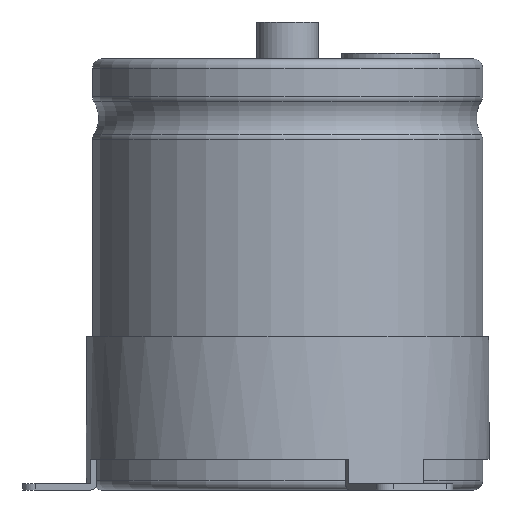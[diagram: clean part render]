
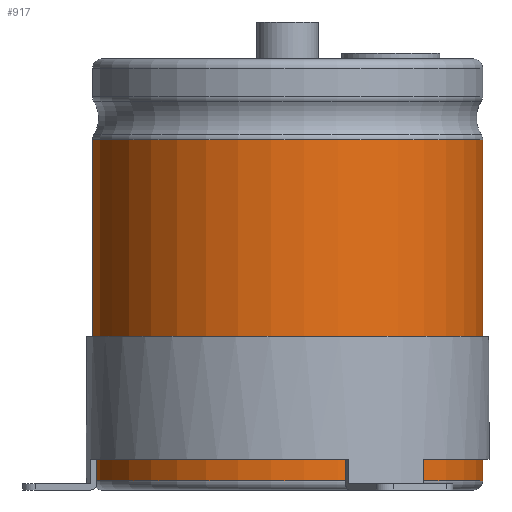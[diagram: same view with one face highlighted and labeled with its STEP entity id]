
A CAD part, front view. The second image highlights one B-rep face of the part: STEP entity #917.
In plain terms, the highlighted cylindrical face has radius 31.75 mm (diameter 63.5 mm), a partial arc.
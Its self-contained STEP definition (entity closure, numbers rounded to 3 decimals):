
#917=ADVANCED_FACE('',(#1213),#1039,.T.);
#1039=CYLINDRICAL_SURFACE('',#4878,31.75);
#1213=FACE_OUTER_BOUND('',#1474,.T.);
#1474=EDGE_LOOP('',(#2748,#2749,#2750,#2751));
#1758=CIRCLE('',#4875,31.75);
#1759=CIRCLE('',#4877,31.75);
#2748=ORIENTED_EDGE('',*,*,#3929,.T.);
#2749=ORIENTED_EDGE('',*,*,#3930,.T.);
#2750=ORIENTED_EDGE('',*,*,#3931,.F.);
#2751=ORIENTED_EDGE('',*,*,#3932,.F.);
#3366=VERTEX_POINT('',#7964);
#3368=VERTEX_POINT('',#7968);
#3369=VERTEX_POINT('',#7972);
#3370=VERTEX_POINT('',#7974);
#3929=EDGE_CURVE('',#3366,#3368,#1758,.T.);
#3930=EDGE_CURVE('',#3368,#3369,#4255,.T.);
#3931=EDGE_CURVE('',#3370,#3369,#1759,.T.);
#3932=EDGE_CURVE('',#3366,#3370,#4256,.T.);
#4255=LINE('',#7971,#4469);
#4256=LINE('',#7975,#4470);
#4469=VECTOR('',#5936,1.);
#4470=VECTOR('',#5939,1.);
#4875=AXIS2_PLACEMENT_3D('',#7969,#5932,#5933);
#4877=AXIS2_PLACEMENT_3D('',#7973,#5937,#5938);
#4878=AXIS2_PLACEMENT_3D('',#7976,#5940,#5941);
#5932=DIRECTION('',(0.,0.,-1.));
#5933=DIRECTION('',(0.,1.,0.));
#5936=DIRECTION('',(0.,0.,-1.));
#5937=DIRECTION('',(0.,0.,-1.));
#5938=DIRECTION('',(0.,1.,0.));
#5939=DIRECTION('',(0.,0.,-1.));
#5940=DIRECTION('',(0.,0.,-1.));
#5941=DIRECTION('',(0.,1.,0.));
#7964=CARTESIAN_POINT('',(4.007,31.496,56.9));
#7968=CARTESIAN_POINT('',(-4.007,31.496,56.9));
#7969=CARTESIAN_POINT('',(0.,0.,56.9));
#7971=CARTESIAN_POINT('',(-4.007,31.496,56.9));
#7972=CARTESIAN_POINT('',(-4.007,31.496,1.5));
#7973=CARTESIAN_POINT('',(0.,0.,1.5));
#7974=CARTESIAN_POINT('',(4.007,31.496,1.5));
#7975=CARTESIAN_POINT('',(4.007,31.496,56.9));
#7976=CARTESIAN_POINT('',(0.,0.,0.));
